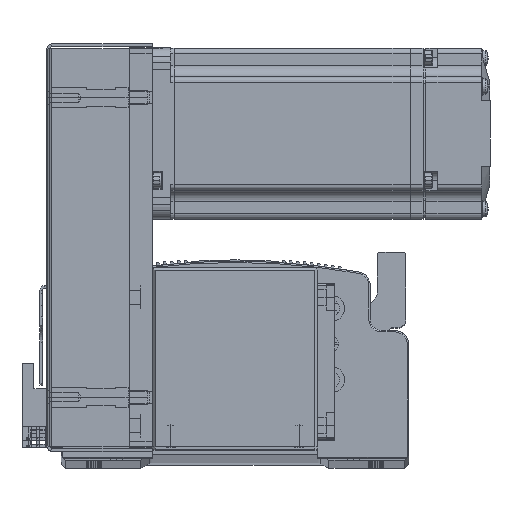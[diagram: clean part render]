
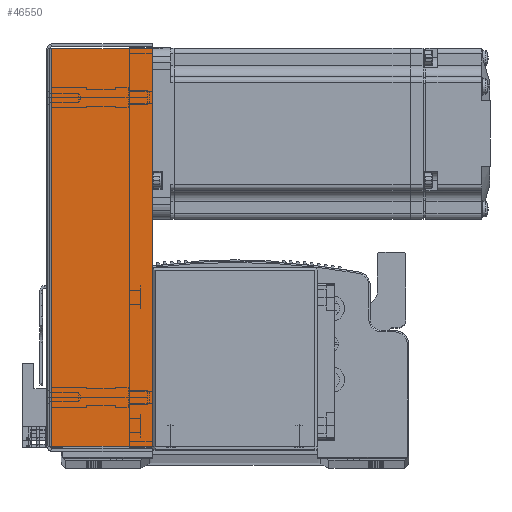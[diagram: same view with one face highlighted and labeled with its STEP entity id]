
A CAD part, top view. The second image highlights one B-rep face of the part: STEP entity #46550.
In plain terms, the highlighted planar face has unit normal (0, 0, 1) as drawn and (0, 0, -1) by its records, which use the part's own axes.
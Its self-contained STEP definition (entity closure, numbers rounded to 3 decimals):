
#7143 = EDGE_LOOP ( 'NONE', ( #70197, #70224, #70315, #70196 ) ) ;
#13017 = FACE_OUTER_BOUND ( 'NONE', #7143, .T. ) ;
#23240 = DIRECTION ( 'NONE',  ( 0., -1., 0. ) ) ;
#23262 = DIRECTION ( 'NONE',  ( 0., 0., 1. ) ) ;
#23275 = PLANE ( 'NONE',  #48604 ) ;
#23281 = CARTESIAN_POINT ( 'NONE',  ( 0., 0., -33.5 ) ) ;
#36262 = CARTESIAN_POINT ( 'NONE',  ( 69.793, 36., -33.5 ) ) ;
#36334 = CARTESIAN_POINT ( 'NONE',  ( -69.793, 36., -33.5 ) ) ;
#36365 = CARTESIAN_POINT ( 'NONE',  ( 69.793, 0.737, -33.5 ) ) ;
#36416 = CARTESIAN_POINT ( 'NONE',  ( -69.793, 0.737, -33.5 ) ) ;
#38495 = VERTEX_POINT ( 'NONE', #36262 ) ;
#38579 = VERTEX_POINT ( 'NONE', #36334 ) ;
#38705 = VERTEX_POINT ( 'NONE', #36365 ) ;
#38768 = VERTEX_POINT ( 'NONE', #36416 ) ;
#46550 = ADVANCED_FACE ( 'NONE', ( #13017 ), #23275, .F. ) ;
#48604 = AXIS2_PLACEMENT_3D ( 'NONE', #23281, #23262, #23240 ) ;
#56322 = CARTESIAN_POINT ( 'NONE',  ( 69.793, 0., -33.5 ) ) ;
#56336 = DIRECTION ( 'NONE',  ( 0., 1., 0. ) ) ;
#56449 = CARTESIAN_POINT ( 'NONE',  ( 71.5, 0.737, -33.5 ) ) ;
#56450 = DIRECTION ( 'NONE',  ( 1., 0., 0. ) ) ;
#56499 = CARTESIAN_POINT ( 'NONE',  ( 0., 36., -33.5 ) ) ;
#56504 = DIRECTION ( 'NONE',  ( 1., 0., 0. ) ) ;
#70196 = ORIENTED_EDGE ( 'NONE', *, *, #75410, .F. ) ;
#70197 = ORIENTED_EDGE ( 'NONE', *, *, #75466, .F. ) ;
#70224 = ORIENTED_EDGE ( 'NONE', *, *, #75371, .T. ) ;
#70315 = ORIENTED_EDGE ( 'NONE', *, *, #75470, .T. ) ;
#74060 = VECTOR ( 'NONE', #79323, 1000. ) ;
#74071 = LINE ( 'NONE', #79297, #74060 ) ;
#74128 = LINE ( 'NONE', #56322, #74139 ) ;
#74139 = VECTOR ( 'NONE', #56336, 1000. ) ;
#74185 = VECTOR ( 'NONE', #56450, 1000. ) ;
#74192 = LINE ( 'NONE', #56449, #74185 ) ;
#74207 = LINE ( 'NONE', #56499, #74224 ) ;
#74224 = VECTOR ( 'NONE', #56504, 1000. ) ;
#75371 = EDGE_CURVE ( 'NONE', #38768, #38579, #74071, .T. ) ;
#75410 = EDGE_CURVE ( 'NONE', #38705, #38495, #74128, .T. ) ;
#75466 = EDGE_CURVE ( 'NONE', #38768, #38705, #74192, .T. ) ;
#75470 = EDGE_CURVE ( 'NONE', #38579, #38495, #74207, .T. ) ;
#79297 = CARTESIAN_POINT ( 'NONE',  ( -69.793, 0., -33.5 ) ) ;
#79323 = DIRECTION ( 'NONE',  ( 0., 1., 0. ) ) ;
